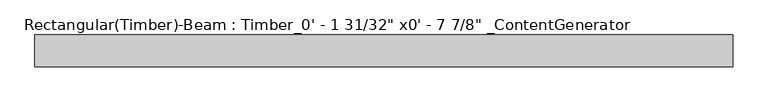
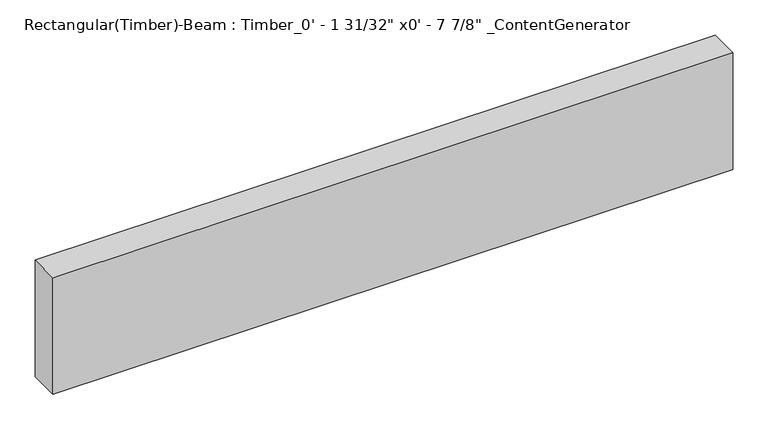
"""IFC4 building model written with IfcOpenShell, lengths in millimetres: beam geometry."""

from ifc_helpers import new_model, si_unit, frame, origin, place, context, project, spatial, polyline, outline, extrude, source, transform, mapped, element, save


def beam_7b8014bc(model_context):
    return source(origin(), model_context, "Body", "SweptSolid", [
        extrude(outline(polyline([(558.8, 25.4), (558.8, -25.4), (-558.8, -25.4), (-558.8, 25.4), (558.8, 25.4)])), frame((0.0, 0.0, -101.6), z_axis=(0.0, 0.0, 1.0), x_axis=(1.0, 0.0, 0.0)), (0.0, 0.0, 1.0), 203.2),
    ])


if __name__ == "__main__":
    model = new_model("IFC4")
    model_context = context("Model", 3, world=origin())
    ifc_project = project(units=[si_unit("LENGTHUNIT", "METRE", prefix="MILLI")], contexts=[model_context])
    site = spatial("IfcSite", under=ifc_project)
    building = spatial("IfcBuilding", under=site)
    placement = place(None, origin())
    beam_shape = beam_7b8014bc(model_context)
    element("IfcBeam", 1, ObjectType="Rectangular(Timber)-Beam : Timber_0' - 1 31/32\" x0' - 7 7/8\" _ContentGenerator", at=placement, inside=building, context=model_context, shape_type="MappedRepresentation", body=[
        mapped(beam_shape, transform((0.0, 0.0, 0.0), x_axis=(1.0, 0.0, 0.0), y_axis=(0.0, 1.0, 0.0), z_axis=(0.0, 0.0, 1.0))),
    ])
    save(model, "model.ifc")
